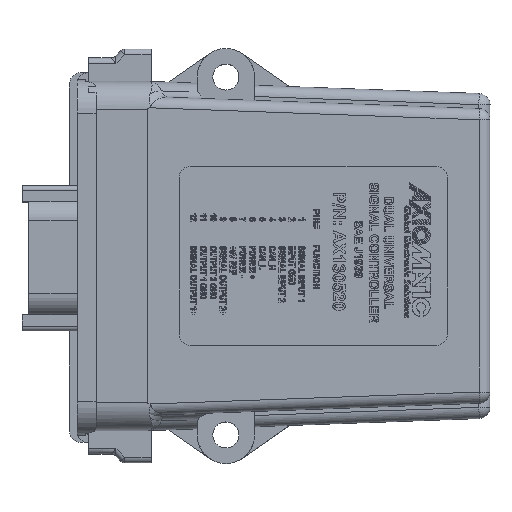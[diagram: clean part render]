
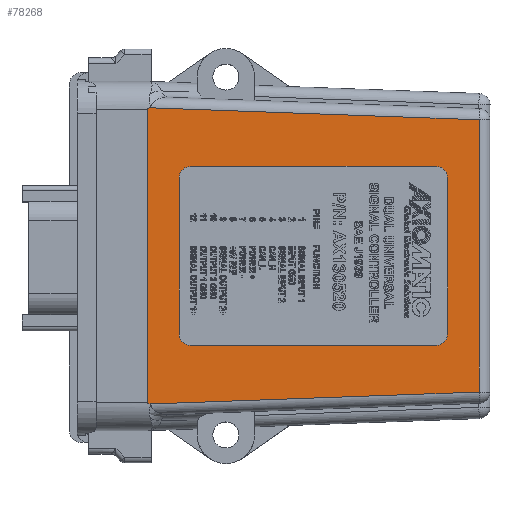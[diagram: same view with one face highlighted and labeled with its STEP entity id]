
A CAD part, top view. The second image highlights one B-rep face of the part: STEP entity #78268.
In plain terms, the highlighted planar face has unit normal (0.019, 0, 1).
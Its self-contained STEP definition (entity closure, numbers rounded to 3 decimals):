
#75=ELLIPSE($,#81434,16.587,0.312);
#76=ELLIPSE($,#81435,16.587,0.312);
#451=CIRCLE($,#81430,0.125);
#452=CIRCLE($,#81431,0.125);
#453=CIRCLE($,#81432,0.125);
#454=CIRCLE($,#81433,0.125);
#1202=FACE_BOUND($,#12354,.T.);
#1203=FACE_BOUND($,#12355,.T.);
#3389=B_SPLINE_CURVE_WITH_KNOTS($,3,(#128631,#128632,#128633,#128634,#128635,
#128636,#128637),.UNSPECIFIED.,.F.,.F.,(4,3,4),(-0.001,0.,
0.011),.UNSPECIFIED.);
#3392=B_SPLINE_CURVE_WITH_KNOTS($,3,(#128700,#128701,#128702,#128703,#128704,
#128705),.UNSPECIFIED.,.F.,.F.,(4,2,4),(0.426,0.443,
0.445),.UNSPECIFIED.);
#12354=EDGE_LOOP($,(#64958,#64959,#64960,#64961,#64962,#64963,#64964,#64965));
#12355=EDGE_LOOP($,(#64966,#64967,#64968,#64969,#64970,#64971,#64972,#64973));
#19945=LINE($,#128544,#27922);
#19946=LINE($,#128550,#27923);
#19952=LINE($,#128585,#27929);
#19959=LINE($,#128682,#27936);
#19960=LINE($,#128686,#27937);
#19961=LINE($,#128690,#27938);
#19962=LINE($,#128693,#27939);
#19963=LINE($,#128698,#27940);
#27922=VECTOR($,#94121,3.673);
#27923=VECTOR($,#94126,3.673);
#27929=VECTOR($,#94184,3.044);
#27936=VECTOR($,#94219,2.75);
#27937=VECTOR($,#94222,1.75);
#27938=VECTOR($,#94225,2.75);
#27939=VECTOR($,#94228,1.75);
#27940=VECTOR($,#94231,3.28);
#35100=VERTEX_POINT($,#128540);
#35101=VERTEX_POINT($,#128542);
#35102=VERTEX_POINT($,#128546);
#35104=VERTEX_POINT($,#128549);
#35110=VERTEX_POINT($,#128630);
#35117=VERTEX_POINT($,#128678);
#35118=VERTEX_POINT($,#128679);
#35119=VERTEX_POINT($,#128681);
#35120=VERTEX_POINT($,#128683);
#35121=VERTEX_POINT($,#128685);
#35122=VERTEX_POINT($,#128687);
#35123=VERTEX_POINT($,#128689);
#35124=VERTEX_POINT($,#128691);
#35125=VERTEX_POINT($,#128694);
#35126=VERTEX_POINT($,#128695);
#35127=VERTEX_POINT($,#128697);
#45235=EDGE_CURVE($,#35101,#35100,#19945,.T.);
#45237=EDGE_CURVE($,#35102,#35104,#19946,.T.);
#45258=EDGE_CURVE($,#35100,#35102,#19952,.T.);
#45262=EDGE_CURVE($,#35104,#35110,#3389,.T.);
#45273=EDGE_CURVE($,#35117,#35118,#451,.T.);
#45274=EDGE_CURVE($,#35118,#35119,#19959,.T.);
#45275=EDGE_CURVE($,#35119,#35120,#452,.T.);
#45276=EDGE_CURVE($,#35120,#35121,#19960,.T.);
#45277=EDGE_CURVE($,#35121,#35122,#453,.T.);
#45278=EDGE_CURVE($,#35122,#35123,#19961,.T.);
#45279=EDGE_CURVE($,#35123,#35124,#454,.T.);
#45280=EDGE_CURVE($,#35124,#35117,#19962,.T.);
#45281=EDGE_CURVE($,#35125,#35126,#75,.T.);
#45282=EDGE_CURVE($,#35125,#35127,#19963,.T.);
#45283=EDGE_CURVE($,#35110,#35127,#76,.T.);
#45284=EDGE_CURVE($,#35101,#35126,#3392,.F.);
#64958=ORIENTED_EDGE($,*,*,#45273,.T.);
#64959=ORIENTED_EDGE($,*,*,#45274,.T.);
#64960=ORIENTED_EDGE($,*,*,#45275,.T.);
#64961=ORIENTED_EDGE($,*,*,#45276,.T.);
#64962=ORIENTED_EDGE($,*,*,#45277,.T.);
#64963=ORIENTED_EDGE($,*,*,#45278,.T.);
#64964=ORIENTED_EDGE($,*,*,#45279,.T.);
#64965=ORIENTED_EDGE($,*,*,#45280,.T.);
#64966=ORIENTED_EDGE($,*,*,#45281,.F.);
#64967=ORIENTED_EDGE($,*,*,#45282,.T.);
#64968=ORIENTED_EDGE($,*,*,#45283,.F.);
#64969=ORIENTED_EDGE($,*,*,#45262,.F.);
#64970=ORIENTED_EDGE($,*,*,#45237,.F.);
#64971=ORIENTED_EDGE($,*,*,#45258,.F.);
#64972=ORIENTED_EDGE($,*,*,#45235,.F.);
#64973=ORIENTED_EDGE($,*,*,#45284,.T.);
#70637=PLANE($,#81429);
#78268=ADVANCED_FACE($,(#1202,#1203),#70637,.F.);
#81429=AXIS2_PLACEMENT_3D($,#128677,#94215,#94216);
#81430=AXIS2_PLACEMENT_3D($,#128680,#94217,#94218);
#81431=AXIS2_PLACEMENT_3D($,#128684,#94220,#94221);
#81432=AXIS2_PLACEMENT_3D($,#128688,#94223,#94224);
#81433=AXIS2_PLACEMENT_3D($,#128692,#94226,#94227);
#81434=AXIS2_PLACEMENT_3D($,#128696,#94229,#94230);
#81435=AXIS2_PLACEMENT_3D($,#128699,#94232,#94233);
#94121=DIRECTION($,(0.999,-0.036,-0.019));
#94126=DIRECTION($,(-0.999,-0.036,0.019));
#94184=DIRECTION($,(0.,-1.,0.));
#94215=DIRECTION('center_axis',(-0.019,0.,
-1.));
#94216=DIRECTION('ref_axis',(1.,0.,-0.019));
#94217=DIRECTION('center_axis',(-0.019,0.,
-1.));
#94218=DIRECTION('ref_axis',(0.,1.,0.));
#94219=DIRECTION($,(-1.,0.,0.019));
#94220=DIRECTION('center_axis',(-0.019,0.,
-1.));
#94221=DIRECTION('ref_axis',(1.,0.,-0.019));
#94222=DIRECTION($,(0.,1.,0.));
#94223=DIRECTION('center_axis',(-0.019,0.,
-1.));
#94224=DIRECTION('ref_axis',(0.,-1.,0.));
#94225=DIRECTION($,(1.,0.,-0.019));
#94226=DIRECTION('center_axis',(-0.019,0.,
-1.));
#94227=DIRECTION('ref_axis',(-1.,0.,0.019));
#94228=DIRECTION($,(0.,-1.,0.));
#94229=DIRECTION('center_axis',(-0.019,0.,
-1.));
#94230=DIRECTION('ref_axis',(-1.,0.,0.019));
#94231=DIRECTION($,(0.,-1.,0.));
#94232=DIRECTION('center_axis',(-0.019,0.,
-1.));
#94233=DIRECTION('ref_axis',(-1.,0.,0.019));
#128540=CARTESIAN_POINT('',(2.075,1.549,0.968));
#128542=CARTESIAN_POINT('',(-1.595,1.682,1.037));
#128544=CARTESIAN_POINT($,(1.301,1.577,0.982));
#128546=CARTESIAN_POINT('',(2.075,-1.495,0.968));
#128549=CARTESIAN_POINT('',(-1.595,-1.629,1.037));
#128550=CARTESIAN_POINT($,(1.301,-1.523,0.982));
#128585=CARTESIAN_POINT($,(2.075,0.027,0.968));
#128630=CARTESIAN_POINT('',(-1.598,-1.632,1.037));
#128631=CARTESIAN_POINT('Ctrl Pts',(-1.595,-1.629,
1.037));
#128632=CARTESIAN_POINT('Ctrl Pts',(-1.595,-1.629,
1.037));
#128633=CARTESIAN_POINT('Ctrl Pts',(-1.595,-1.629,
1.037));
#128634=CARTESIAN_POINT('Ctrl Pts',(-1.595,-1.629,
1.037));
#128635=CARTESIAN_POINT('Ctrl Pts',(-1.596,-1.63,
1.037));
#128636=CARTESIAN_POINT('Ctrl Pts',(-1.597,-1.631,
1.037));
#128637=CARTESIAN_POINT('Ctrl Pts',(-1.598,-1.632,
1.037));
#128677=CARTESIAN_POINT('Origin',(2.197,0.027,0.965));
#128678=CARTESIAN_POINT('',(1.722,-0.848,0.974));
#128679=CARTESIAN_POINT('',(1.597,-0.973,0.977));
#128680=CARTESIAN_POINT('Origin',(1.597,-0.848,0.977));
#128681=CARTESIAN_POINT('',(-1.152,-0.973,1.029));
#128682=CARTESIAN_POINT($,(1.897,-0.973,0.971));
#128683=CARTESIAN_POINT('',(-1.277,-0.848,1.031));
#128684=CARTESIAN_POINT('Origin',(-1.152,-0.848,
1.029));
#128685=CARTESIAN_POINT('',(-1.277,0.902,1.031));
#128686=CARTESIAN_POINT($,(-1.277,-0.411,1.031));
#128687=CARTESIAN_POINT('',(-1.152,1.027,1.029));
#128688=CARTESIAN_POINT('Origin',(-1.152,0.902,1.029));
#128689=CARTESIAN_POINT('',(1.597,1.027,0.977));
#128690=CARTESIAN_POINT($,(0.522,1.027,0.997));
#128691=CARTESIAN_POINT('',(1.722,0.902,0.974));
#128692=CARTESIAN_POINT('Origin',(1.597,0.902,0.977));
#128693=CARTESIAN_POINT($,(1.722,0.464,0.974));
#128694=CARTESIAN_POINT('',(-1.63,1.667,1.037));
#128695=CARTESIAN_POINT('',(-1.598,1.686,1.037));
#128696=CARTESIAN_POINT('Origin',(14.954,1.667,0.725));
#128697=CARTESIAN_POINT('',(-1.63,-1.613,1.037));
#128698=CARTESIAN_POINT($,(-1.63,1.003,1.037));
#128699=CARTESIAN_POINT('Origin',(14.954,-1.613,0.725));
#128700=CARTESIAN_POINT('Ctrl Pts',(-1.598,1.686,
1.037));
#128701=CARTESIAN_POINT('Ctrl Pts',(-1.597,1.685,
1.037));
#128702=CARTESIAN_POINT('Ctrl Pts',(-1.596,1.684,
1.037));
#128703=CARTESIAN_POINT('Ctrl Pts',(-1.595,1.683,
1.037));
#128704=CARTESIAN_POINT('Ctrl Pts',(-1.595,1.683,
1.037));
#128705=CARTESIAN_POINT('Ctrl Pts',(-1.595,1.682,
1.037));
